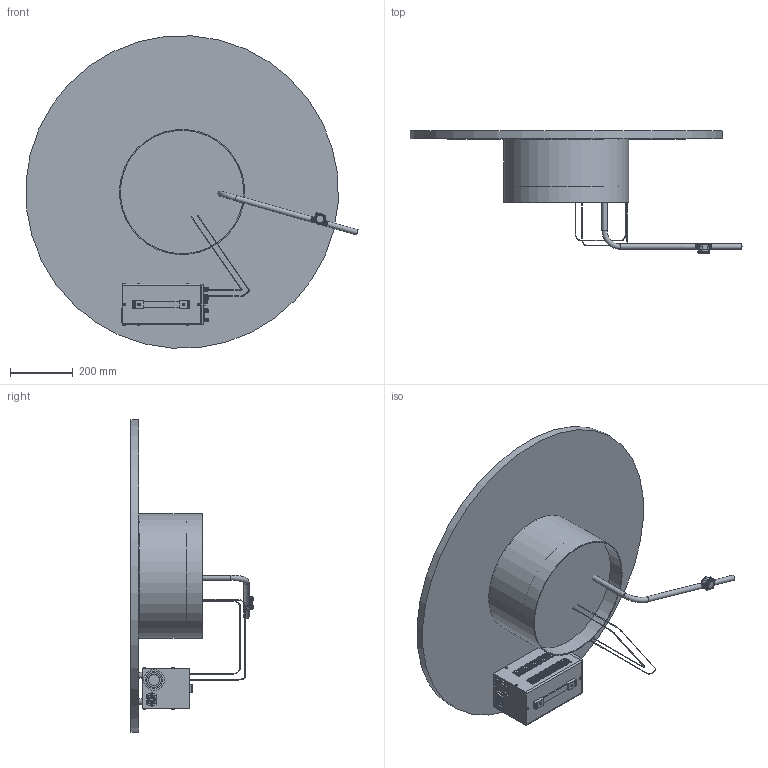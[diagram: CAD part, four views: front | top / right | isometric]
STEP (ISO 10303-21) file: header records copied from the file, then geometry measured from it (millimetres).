
FILE_DESCRIPTION(/* description */ (''),/* implementation_level */ '2;1');
FILE_NAME(/* name */ 'C:\Users\admin\Desktop\inventor\banco pompa sentina\step\banco_pompa_sentina.stp',/* time_stamp */ '2021-10-29T15:28:47+02:00',/* author */ ('admin'),/* organization */ (''),/* preprocessor_version */ 'ST-DEVELOPER v18.1',/* originating_system */ 'Autodesk Inventor 2022',/* authorisation */ '');
FILE_SCHEMA (('AUTOMOTIVE_DESIGN { 1 0 10303 214 3 1 1 }'));
Products named in the file (25): Bilge2; Bilge_Axis; cassa2; cassa3; AS 1427 - M3 x 12; AS 1421 - M3 x 8 punta piana; IMPELER; cassa_b; serbatoio; acqua; G3_8_water_flow_sensor v5; Component1; 94997A130; Parte7; tubo2; tavolo; Lab power supply; AC 3-Pin With Fuse; Zasilacz; R¹czka; Wkrêt nr 1; Stopka; fili; tubo_acqua; Bilge_Motor
Assembly tree (49 placements, depth 4):
  Bilge2
    Bilge_Axis
    cassa2
    cassa3
    AS 1427 - M3 x 12  x10
    AS 1421 - M3 x 8 punta piana
    IMPELER
    cassa_b
    serbatoio
    acqua
    G3_8_water_flow_sensor v5
      Component1
        94997A130  x4
        Parte7
    tubo2
    tavolo
    Lab power supply
      AC 3-Pin With Fuse
      Zasilacz
      Wkrêt nr 1  x11
      R¹czka
      Stopka  x4
    fili
    tubo_acqua
    Bilge_Motor
Bounding box: 1061.04 x 390.58 x 997.84 mm (x, y, z)
Volume: 44417521.7 mm3; surface area: 3282216.9 mm2
Topology: 70 solids, 72 shells, 6360 faces, 16810 edges, 11072 vertices
Faces by surface type: plane 3783, cylinder 1185, bspline 939, torus 209, cone 208, sphere 36
Full cylindrical faces by diameter (mm): 1.575 x40, 2 x12, 2.17 x32, 2.295 x2, 2.387 x10, 2.6 x8, 3 x30, 3.2 x1, 5 x7, 5.3 x10, 6 x6, 7 x4, 7.5 x11, 8.5 x4, 10 x5, 11 x2, 13 x5, 14.95 x14, 16 x4, 17 x4, 24.26 x1, 30.25 x1, 39.3 x1, 39.6 x1, 43.6 x1, 49.6 x1, 51 x1, 55 x1, 58.5 x1, 58.7 x1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
Entity records: 225331 total; most frequent: CARTESIAN_POINT 89424, ORIENTED_EDGE 29350, DIRECTION 24576, EDGE_CURVE 14679, LINE 9726, VECTOR 9726, VERTEX_POINT 9683, AXIS2_PLACEMENT_3D 7425
